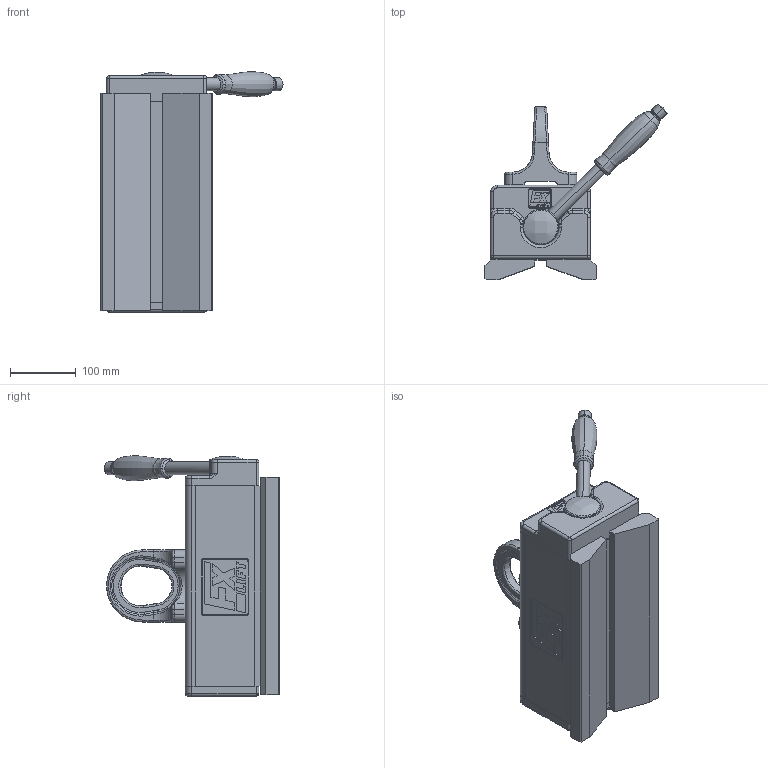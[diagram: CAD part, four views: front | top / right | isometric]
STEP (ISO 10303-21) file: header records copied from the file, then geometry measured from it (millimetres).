
FILE_DESCRIPTION(('STEP AP214'),'1');
FILE_NAME('1101_0751.stp','2017-06-12T09:30:38',('TraceParts'),('TraceParts S.A.'),'Spatial InterOp 3D',' ',' ');
FILE_SCHEMA(('automotive_design'));
Length unit declared in the file: millimetre
Products named in the file (1): 1101_0751
Bounding box: 277.57 x 267.67 x 366.44 mm (x, y, z)
Volume: 7447086.7 mm3; surface area: 362678.9 mm2
Topology: 1 solids, 1 shells, 767 faces, 1973 edges, 1246 vertices
Faces by surface type: plane 431, bspline 142, cylinder 127, cone 32, torus 31, sphere 4
Entity records: 36711 total; most frequent: CARTESIAN_POINT 19006, ORIENTED_EDGE 3898, DIRECTION 3259, EDGE_CURVE 1949, LINE 1269, VECTOR 1269, VERTEX_POINT 1246, AXIS2_PLACEMENT_3D 995
